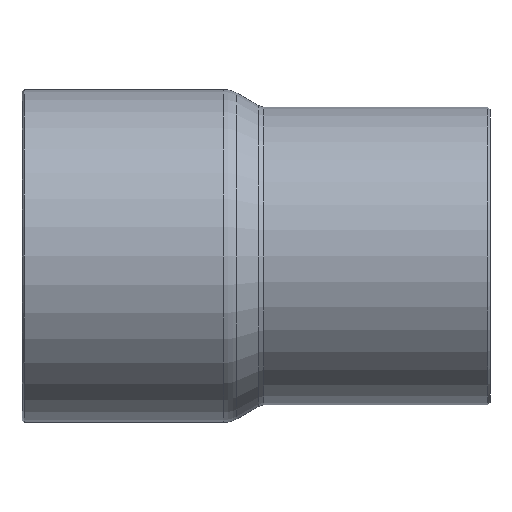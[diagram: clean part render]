
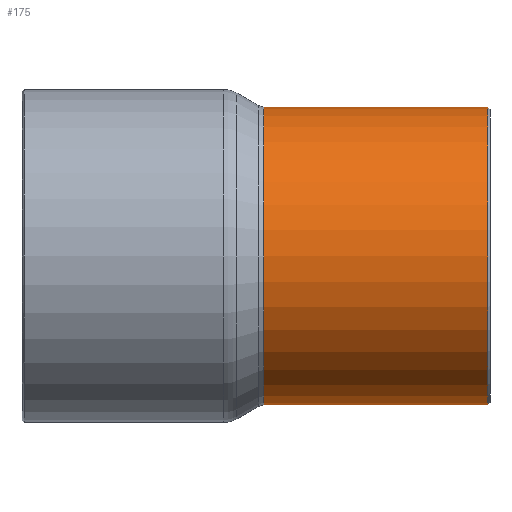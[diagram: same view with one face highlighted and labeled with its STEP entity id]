
A CAD part, front view. The second image highlights one B-rep face of the part: STEP entity #175.
In plain terms, the highlighted cylindrical face has radius 14.285 mm (diameter 28.57 mm), a full revolution.
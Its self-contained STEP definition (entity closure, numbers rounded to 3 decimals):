
#141=CARTESIAN_POINT('',(21.494,14.285,0.));
#142=VERTEX_POINT('',#141);
#143=CARTESIAN_POINT('',(21.494,0.0,0.0));
#144=DIRECTION('',(1.0,0.0,0.0));
#145=DIRECTION('',(0.0,-1.0,0.0));
#146=AXIS2_PLACEMENT_3D('',#143,#144,#145);
#147=CIRCLE('',#146,14.285);
#148=EDGE_CURVE('',#142,#142,#147,.T.);
#156=CARTESIAN_POINT('',(10.847,0.0,0.0));
#157=DIRECTION('',(1.0,0.0,0.0));
#158=DIRECTION('',(0.0,1.0,0.0));
#159=AXIS2_PLACEMENT_3D('',#156,#157,#158);
#160=CYLINDRICAL_SURFACE('',#159,14.285);
#161=CARTESIAN_POINT('',(0.,14.285,0.0));
#162=VERTEX_POINT('',#161);
#163=CARTESIAN_POINT('',(0.0,0.0,0.0));
#164=DIRECTION('',(1.0,0.0,0.0));
#165=DIRECTION('',(0.0,1.0,0.0));
#166=AXIS2_PLACEMENT_3D('',#163,#164,#165);
#167=CIRCLE('',#166,14.285);
#168=EDGE_CURVE('',#162,#162,#167,.T.);
#169=ORIENTED_EDGE('',*,*,#168,.T.);
#170=EDGE_LOOP('',(#169));
#171=FACE_OUTER_BOUND('',#170,.T.);
#172=ORIENTED_EDGE('',*,*,#148,.F.);
#173=EDGE_LOOP('',(#172));
#174=FACE_BOUND('',#173,.T.);
#175=ADVANCED_FACE('',(#171,#174),#160,.T.);
